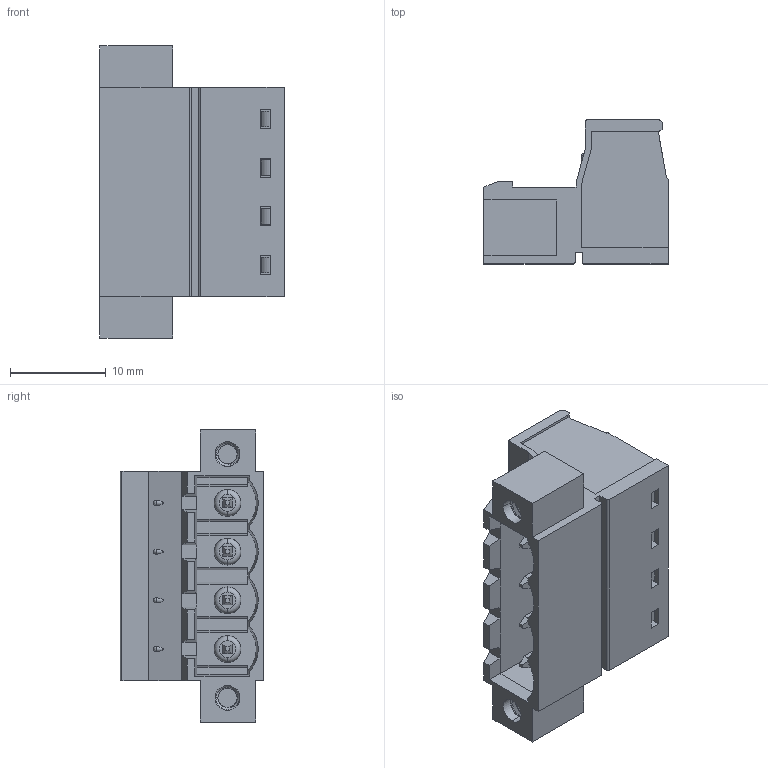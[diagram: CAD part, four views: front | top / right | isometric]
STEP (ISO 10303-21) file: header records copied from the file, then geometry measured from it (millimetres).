
FILE_DESCRIPTION((''),'2;1');
FILE_NAME('508-4_ASM','2017-05-05T',('exploitation03'),(''),'CREO PARAMETRIC BY PTC INC, 2014500','CREO PARAMETRIC BY PTC INC, 2014500','');
FILE_SCHEMA(('CONFIG_CONTROL_DESIGN'));
Products named in the file (1): 508-4_ASM
Bounding box: 19.2 x 15 x 30.44 mm (x, y, z)
Volume: 2832.8 mm3; surface area: 6355.3 mm2
Topology: 1 solids, 17 shells, 1317 faces, 3453 edges, 2229 vertices
Faces by surface type: plane 811, cylinder 246, bspline 152, cone 56, torus 40, extrusion 8, sphere 4
Entity records: 61509 total; most frequent: CARTESIAN_POINT 26000, ORIENTED_EDGE 6898, DIRECTION 5552, EDGE_CURVE 3449, VECTOR 2246, LINE 2238, VERTEX_POINT 2229, AXIS2_PLACEMENT_3D 1653
